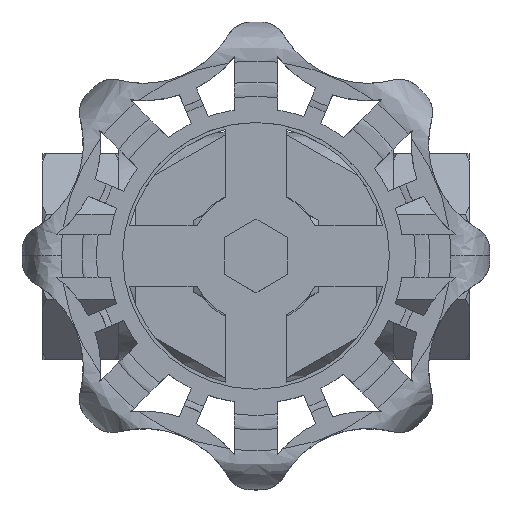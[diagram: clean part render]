
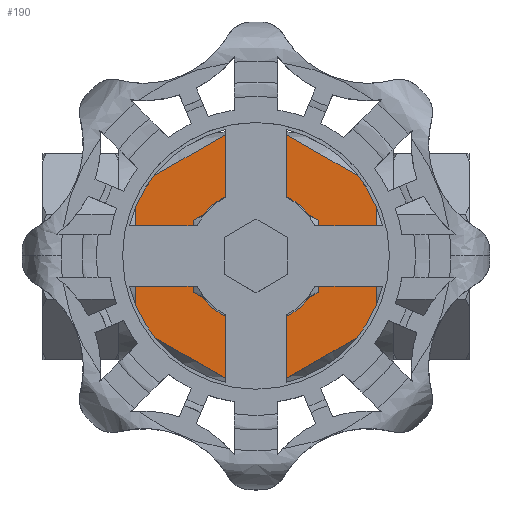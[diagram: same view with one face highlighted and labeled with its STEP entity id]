
A CAD part, top view. The second image highlights one B-rep face of the part: STEP entity #190.
In plain terms, the highlighted planar face has unit normal (0, 0, 1).
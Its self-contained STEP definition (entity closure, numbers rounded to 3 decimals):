
#190=ADVANCED_FACE('',(#1876,#1877),#1875,.F.);
#1875=PLANE('',#4264);
#1876=FACE_OUTER_BOUND('',#4265,.T.);
#1877=FACE_BOUND('',#4266,.T.);
#4261=CARTESIAN_POINT('',(40.8,-44.946,65.5));
#4262=DIRECTION('',(0.,0.,-1.));
#4263=DIRECTION('',(-1.,0.,0.));
#4264=AXIS2_PLACEMENT_3D('',#4261,#4262,#4263);
#4265=EDGE_LOOP('',(#6474,#6475,#6476,#6477,#6478,#6479,#6480,#6481,#6482,#6483,#6484,#6485));
#4266=EDGE_LOOP('',(#6486,#6487));
#6474=ORIENTED_EDGE('',*,*,#7950,.F.);
#6475=ORIENTED_EDGE('',*,*,#7815,.F.);
#6476=ORIENTED_EDGE('',*,*,#7964,.F.);
#6477=ORIENTED_EDGE('',*,*,#7969,.F.);
#6478=ORIENTED_EDGE('',*,*,#7820,.F.);
#6479=ORIENTED_EDGE('',*,*,#7970,.F.);
#6480=ORIENTED_EDGE('',*,*,#7963,.F.);
#6481=ORIENTED_EDGE('',*,*,#7971,.F.);
#6482=ORIENTED_EDGE('',*,*,#7960,.F.);
#6483=ORIENTED_EDGE('',*,*,#7822,.F.);
#6484=ORIENTED_EDGE('',*,*,#7951,.F.);
#6485=ORIENTED_EDGE('',*,*,#7808,.F.);
#6486=ORIENTED_EDGE('',*,*,#7972,.T.);
#6487=ORIENTED_EDGE('',*,*,#7973,.T.);
#7808=EDGE_CURVE('',#11483,#11490,#11491,.T.);
#7815=EDGE_CURVE('',#11530,#11537,#11538,.T.);
#7820=EDGE_CURVE('',#11564,#11556,#11571,.T.);
#7822=EDGE_CURVE('',#11577,#11584,#11585,.T.);
#7950=EDGE_CURVE('',#11537,#11483,#12436,.T.);
#7951=EDGE_CURVE('',#11490,#11577,#12442,.T.);
#7960=EDGE_CURVE('',#11584,#12494,#12501,.T.);
#7963=EDGE_CURVE('',#12515,#12507,#12522,.T.);
#7964=EDGE_CURVE('',#12528,#11530,#12529,.T.);
#7969=EDGE_CURVE('',#11556,#12528,#12561,.T.);
#7970=EDGE_CURVE('',#12507,#11564,#12567,.T.);
#7971=EDGE_CURVE('',#12494,#12515,#12573,.T.);
#7972=EDGE_CURVE('',#12579,#12580,#12581,.T.);
#7973=EDGE_CURVE('',#12580,#12579,#12587,.T.);
#11483=VERTEX_POINT('',#16724);
#11490=VERTEX_POINT('',#16729);
#11491=LINE('',#16730,#16731);
#11530=VERTEX_POINT('',#16754);
#11537=VERTEX_POINT('',#16759);
#11538=LINE('',#16760,#16761);
#11556=VERTEX_POINT('',#16771);
#11564=VERTEX_POINT('',#16777);
#11571=CIRCLE('',#16785,37.26);
#11577=VERTEX_POINT('',#16786);
#11584=VERTEX_POINT('',#16791);
#11585=LINE('',#16792,#16793);
#12436=CIRCLE('',#17395,37.26);
#12442=CIRCLE('',#17399,37.26);
#12494=VERTEX_POINT('',#17429);
#12501=CIRCLE('',#17437,37.26);
#12507=VERTEX_POINT('',#17438);
#12515=VERTEX_POINT('',#17444);
#12522=CIRCLE('',#17452,37.26);
#12528=VERTEX_POINT('',#17453);
#12529=CIRCLE('',#17457,37.26);
#12561=LINE('',#17475,#17476);
#12567=LINE('',#17478,#17479);
#12573=LINE('',#17481,#17482);
#12579=VERTEX_POINT('',#17484);
#12580=VERTEX_POINT('',#17485);
#12581=CIRCLE('',#17489,19.);
#12587=CIRCLE('',#17493,19.);
#16724=CARTESIAN_POINT('',(3.801,37.065,65.5));
#16729=CARTESIAN_POINT('',(30.199,21.824,65.5));
#16730=CARTESIAN_POINT('',(3.801,37.065,65.5));
#16731=VECTOR('',#16732,30.482);
#16732=DIRECTION('',(0.866,-0.5,0.));
#16754=CARTESIAN_POINT('',(-30.199,21.824,65.5));
#16759=CARTESIAN_POINT('',(-3.801,37.065,65.5));
#16760=CARTESIAN_POINT('',(-30.199,21.824,65.5));
#16761=VECTOR('',#16762,30.482);
#16762=DIRECTION('',(0.866,0.5,0.));
#16771=CARTESIAN_POINT('',(-34.,-15.241,65.5));
#16777=CARTESIAN_POINT('',(-30.199,-21.824,65.5));
#16782=CARTESIAN_POINT('',(0.,0.,65.5));
#16783=DIRECTION('',(0.,0.,-1.));
#16784=DIRECTION('',(1.,0.,0.));
#16785=AXIS2_PLACEMENT_3D('',#16782,#16783,#16784);
#16786=CARTESIAN_POINT('',(34.,15.241,65.5));
#16791=CARTESIAN_POINT('',(34.,-15.241,65.5));
#16792=CARTESIAN_POINT('',(34.,15.241,65.5));
#16793=VECTOR('',#16794,30.482);
#16794=DIRECTION('',(0.,-1.,0.));
#17392=CARTESIAN_POINT('',(0.,0.,65.5));
#17393=DIRECTION('',(0.,0.,-1.));
#17394=DIRECTION('',(1.,0.,0.));
#17395=AXIS2_PLACEMENT_3D('',#17392,#17393,#17394);
#17396=CARTESIAN_POINT('',(0.,0.,65.5));
#17397=DIRECTION('',(0.,0.,-1.));
#17398=DIRECTION('',(1.,0.,0.));
#17399=AXIS2_PLACEMENT_3D('',#17396,#17397,#17398);
#17429=CARTESIAN_POINT('',(30.199,-21.824,65.5));
#17434=CARTESIAN_POINT('',(0.,0.,65.5));
#17435=DIRECTION('',(0.,0.,-1.));
#17436=DIRECTION('',(1.,0.,0.));
#17437=AXIS2_PLACEMENT_3D('',#17434,#17435,#17436);
#17438=CARTESIAN_POINT('',(-3.801,-37.065,65.5));
#17444=CARTESIAN_POINT('',(3.801,-37.065,65.5));
#17449=CARTESIAN_POINT('',(0.,0.,65.5));
#17450=DIRECTION('',(0.,0.,-1.));
#17451=DIRECTION('',(1.,0.,0.));
#17452=AXIS2_PLACEMENT_3D('',#17449,#17450,#17451);
#17453=CARTESIAN_POINT('',(-34.,15.241,65.5));
#17454=CARTESIAN_POINT('',(0.,0.,65.5));
#17455=DIRECTION('',(0.,0.,-1.));
#17456=DIRECTION('',(1.,0.,0.));
#17457=AXIS2_PLACEMENT_3D('',#17454,#17455,#17456);
#17475=CARTESIAN_POINT('',(-34.,-15.241,65.5));
#17476=VECTOR('',#17477,30.482);
#17477=DIRECTION('',(0.,1.,0.));
#17478=CARTESIAN_POINT('',(-3.801,-37.065,65.5));
#17479=VECTOR('',#17480,30.482);
#17480=DIRECTION('',(-0.866,0.5,0.));
#17481=CARTESIAN_POINT('',(30.199,-21.824,65.5));
#17482=VECTOR('',#17483,30.482);
#17483=DIRECTION('',(-0.866,-0.5,0.));
#17484=CARTESIAN_POINT('',(-19.,0.,65.5));
#17485=CARTESIAN_POINT('',(19.,0.,65.5));
#17486=CARTESIAN_POINT('',(0.,0.,65.5));
#17487=DIRECTION('',(0.,0.,-1.));
#17488=DIRECTION('',(-1.,0.,0.));
#17489=AXIS2_PLACEMENT_3D('',#17486,#17487,#17488);
#17490=CARTESIAN_POINT('',(0.,0.,65.5));
#17491=DIRECTION('',(0.,0.,-1.));
#17492=DIRECTION('',(-1.,0.,0.));
#17493=AXIS2_PLACEMENT_3D('',#17490,#17491,#17492);
